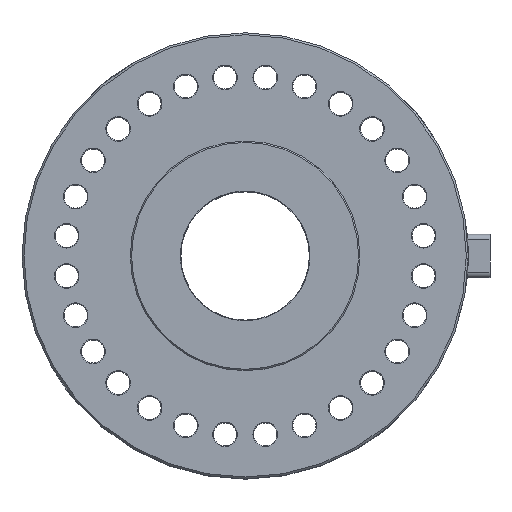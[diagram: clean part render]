
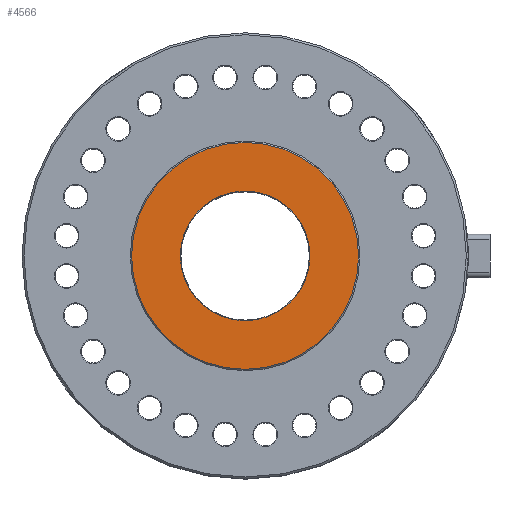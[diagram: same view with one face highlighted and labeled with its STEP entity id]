
A CAD part, top view. The second image highlights one B-rep face of the part: STEP entity #4566.
In plain terms, the highlighted planar face has unit normal (0, 0, 1).
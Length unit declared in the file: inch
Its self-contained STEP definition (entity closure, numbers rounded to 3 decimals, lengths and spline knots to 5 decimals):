
#1005 = CARTESIAN_POINT ( 'NONE',  ( 2.975, 0., 0.25 ) ) ;
#1343 = CARTESIAN_POINT ( 'NONE',  ( -2.975, 0., 0.25 ) ) ;
#1565 = CIRCLE ( 'NONE', #1566, 2.975 ) ;
#1566 = AXIS2_PLACEMENT_3D ( 'NONE', #1567, #1568, #1569 ) ;
#1567 = CARTESIAN_POINT ( 'NONE',  ( 0., 0., 0.25 ) ) ;
#1568 = DIRECTION ( 'NONE',  ( 0., 0., 1. ) ) ;
#1569 = DIRECTION ( 'NONE',  ( -1., 0., 0. ) ) ;
#3967 = EDGE_LOOP ( 'NONE', ( #7382, #4241 ) ) ;
#4241 = ORIENTED_EDGE ( 'NONE', *, *, #9700, .F. ) ;
#4566 = ADVANCED_FACE ( 'NONE', ( #10882, #10883 ), #10884, .F. ) ;
#5126 = CIRCLE ( 'NONE', #5127, 5.2135 ) ;
#5127 = AXIS2_PLACEMENT_3D ( 'NONE', #5128, #5129, #5130 ) ;
#5128 = CARTESIAN_POINT ( 'NONE',  ( 0., 0., 0.25 ) ) ;
#5129 = DIRECTION ( 'NONE',  ( 0., 0., -1. ) ) ;
#5130 = DIRECTION ( 'NONE',  ( -1., 0., 0. ) ) ;
#5177 = CARTESIAN_POINT ( 'NONE',  ( 5.2135, 0., 0.25 ) ) ;
#5356 = CARTESIAN_POINT ( 'NONE',  ( -5.2135, 0., 0.25 ) ) ;
#5435 = CIRCLE ( 'NONE', #5440, 5.2135 ) ;
#5440 = AXIS2_PLACEMENT_3D ( 'NONE', #5441, #5442, #5443 ) ;
#5441 = CARTESIAN_POINT ( 'NONE',  ( 0., 0., 0.25 ) ) ;
#5442 = DIRECTION ( 'NONE',  ( 0., 0., -1. ) ) ;
#5443 = DIRECTION ( 'NONE',  ( -1., 0., 0. ) ) ;
#6277 = CIRCLE ( 'NONE', #6286, 2.975 ) ;
#6286 = AXIS2_PLACEMENT_3D ( 'NONE', #6287, #6288, #6289 ) ;
#6287 = CARTESIAN_POINT ( 'NONE',  ( 0., 0., 0.25 ) ) ;
#6288 = DIRECTION ( 'NONE',  ( 0., 0., 1. ) ) ;
#6289 = DIRECTION ( 'NONE',  ( -1., 0., 0. ) ) ;
#7382 = ORIENTED_EDGE ( 'NONE', *, *, #12317, .F. ) ;
#7720 = ORIENTED_EDGE ( 'NONE', *, *, #8591, .F. ) ;
#8422 = EDGE_LOOP ( 'NONE', ( #7720, #10249 ) ) ;
#8475 = EDGE_CURVE ( 'NONE', #8493, #8539, #5126, .T. ) ;
#8493 = VERTEX_POINT ( 'NONE', #5177 ) ;
#8539 = VERTEX_POINT ( 'NONE', #5356 ) ;
#8591 = EDGE_CURVE ( 'NONE', #8539, #8493, #5435, .T. ) ;
#9700 = EDGE_CURVE ( 'NONE', #11821, #12068, #6277, .T. ) ;
#10249 = ORIENTED_EDGE ( 'NONE', *, *, #8475, .F. ) ;
#10882 = FACE_OUTER_BOUND ( 'NONE', #8422, .T. ) ;
#10883 = FACE_BOUND ( 'NONE', #3967, .T. ) ;
#10884 = PLANE ( 'NONE',  #10885 ) ;
#10885 = AXIS2_PLACEMENT_3D ( 'NONE', #10886, #10887, #10888 ) ;
#10886 = CARTESIAN_POINT ( 'NONE',  ( 5.27606, -5.27606, 0.25 ) ) ;
#10887 = DIRECTION ( 'NONE',  ( 0., 0., -1. ) ) ;
#10888 = DIRECTION ( 'NONE',  ( -1., 0., 0. ) ) ;
#11821 = VERTEX_POINT ( 'NONE', #1005 ) ;
#12068 = VERTEX_POINT ( 'NONE', #1343 ) ;
#12317 = EDGE_CURVE ( 'NONE', #12068, #11821, #1565, .T. ) ;
